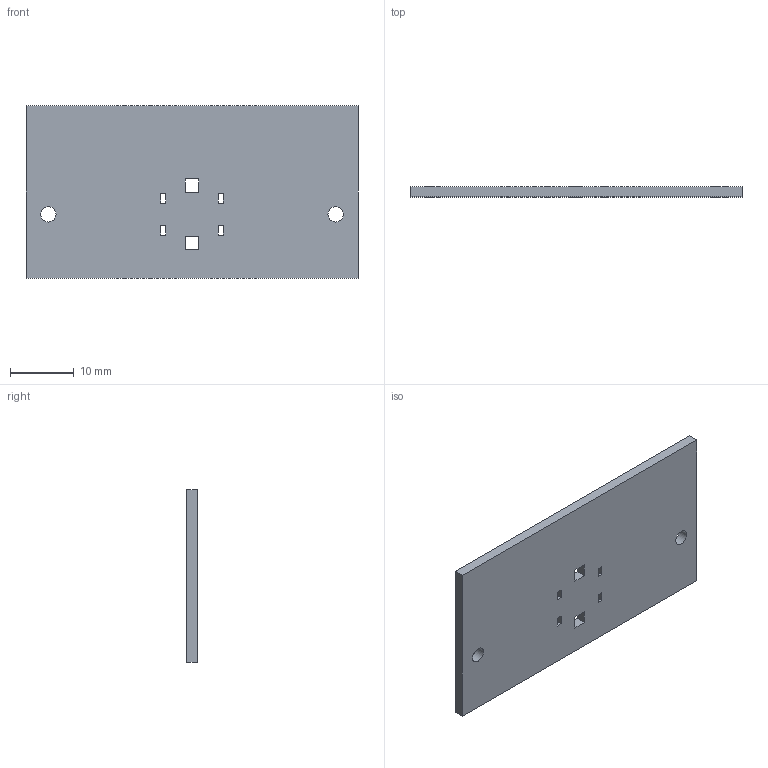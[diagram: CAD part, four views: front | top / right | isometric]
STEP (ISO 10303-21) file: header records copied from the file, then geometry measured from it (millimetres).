
FILE_DESCRIPTION(('Open CASCADE Model'),'2;1');
FILE_NAME('carrier_front_switch_fr4_handwired','2026-09-08T13:43:18',( 'Author'),('Open CASCADE'),'Open CASCADE STEP processor 7.8', 'build123d','Unknown');
FILE_SCHEMA(('AUTOMOTIVE_DESIGN { 1 0 10303 214 1 1 1 1 }'));
Length unit declared in the file: millimetre
Products named in the file (2): =>[0:1:1:2]; carrier_front_switch_fr4_handwired
Assembly tree (1 placements, depth 2):
  =>[0:1:1:2]
    carrier_front_switch_fr4_handwired
Bounding box: 52 x 1.6 x 27 mm (x, y, z)
Volume: 2210.1 mm3; surface area: 3095.9 mm2
Topology: 1 solids, 1 shells, 32 faces, 90 edges, 60 vertices
Faces by surface type: plane 30, cylinder 2
Full cylindrical faces by diameter (mm): 2.4 x2
Entity records: 2248 total; most frequent: CARTESIAN_POINT 364, DIRECTION 342, LINE 262, VECTOR 262, ORIENTED_EDGE 180, PCURVE 180, DEFINITIONAL_REPRESENTATION 180, EDGE_CURVE 90
